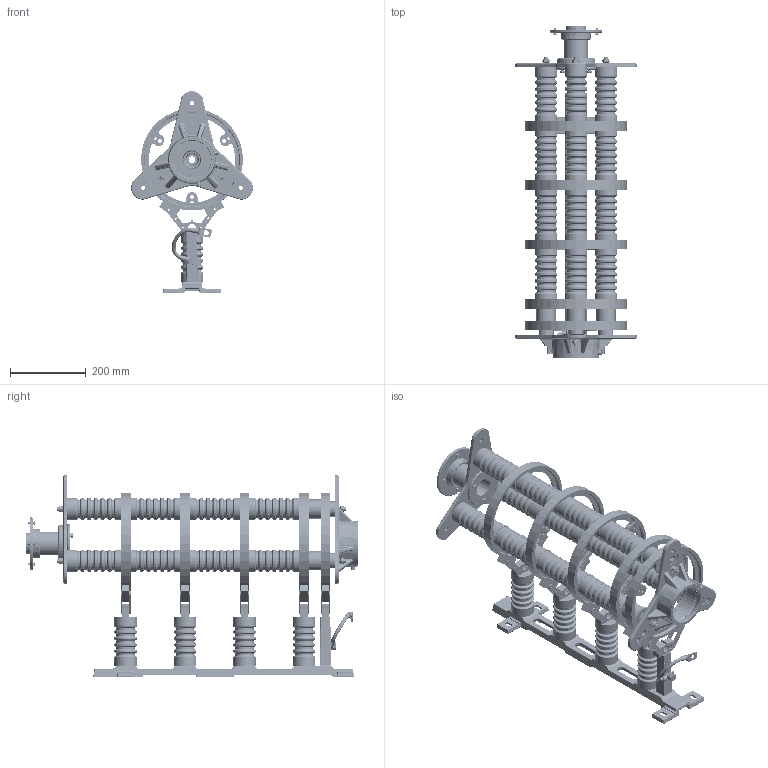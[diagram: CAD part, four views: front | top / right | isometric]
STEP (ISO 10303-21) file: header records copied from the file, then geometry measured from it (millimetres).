
FILE_DESCRIPTION(/* description */ (''),/* implementation_level */ '2;1');
FILE_NAME(/* name */ 'K:\MANDARIC\77323 SINGLE.stp',/* time_stamp */ '2017-12-01T10:29:04+01:00',/* author */ ('milman01'),/* organization */ ('Hillmar Industries Ltd.'),/* preprocessor_version */ 'ST-DEVELOPER v16.1',/* originating_system */ 'Autodesk Inventor 2016',/* authorisation */ '');
FILE_SCHEMA (('AUTOMOTIVE_DESIGN { 1 0 10303 214 3 1 1 }'));
Products named in the file (1): 77323 PSR-06-10KV-5B-400A SLIPRING ASSEMBLY
Bounding box: 322.51 x 879.3 x 534.32 mm (x, y, z)
Volume: 9988412.4 mm3; surface area: 1590830.8 mm2
Topology: 7 solids, 30 shells, 3112 faces, 7249 edges, 4298 vertices
Faces by surface type: cylinder 1073, plane 894, torus 457, cone 410, bspline 174, sphere 104
Full cylindrical faces by diameter (mm): 4.917 x4, 5 x40, 5.459 x4, 6 x4, 6.647 x13, 7 x4, 7.323 x3, 8 x3, 8.376 x40, 8.7 x4, 9 x5, 9.188 x4, 10 x18, 10.106 x11, 10.5 x6, 11 x13, 11.053 x1, 11.4 x3, 13 x3, 13.5 x1, 15.4 x4, 15.6 x6, 16.5 x3, 17.2 x1, 17.5 x3, 18 x1, 20 x3, 23 x13, 24 x5, 31.76 x3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
Entity records: 88963 total; most frequent: CARTESIAN_POINT 20237, DIRECTION 14394, ORIENTED_EDGE 11728, AXIS2_PLACEMENT_3D 6092, EDGE_CURVE 5865, EDGE_LOOP 4605, VERTEX_POINT 4094, STYLED_ITEM 3119
